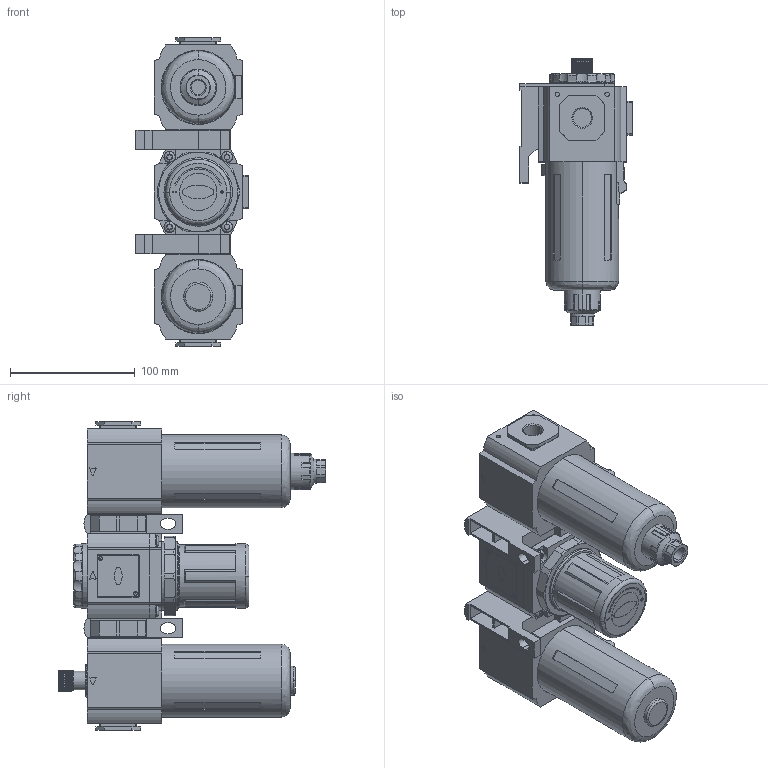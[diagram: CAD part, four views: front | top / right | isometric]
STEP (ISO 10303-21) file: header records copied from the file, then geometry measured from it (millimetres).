
FILE_DESCRIPTION (( 'STEP AP214' ), '1' );
FILE_NAME ('GC-400-10-F1.STEP', '2016-01-22T14:51:04', ( '' ), ( '' ), 'SwSTEP 2.0', 'SolidWorks 2016', '' );
FILE_SCHEMA (( 'AUTOMOTIVE_DESIGN' ));
Length unit declared in the file: millimetre
Products named in the file (29): 23; 9; 22; 10; 21; 18; 1; 25; 16; 3; 4; 8; 17; 7; 14; 20; 15; 26; 11; 12; 27; 5; 13; 24; 19; 6; GC-400-10-F1; 28; 2
Assembly tree (28 placements, depth 2):
  GC-400-10-F1
    1
    2
    3
    4
    5
    6
    7
    8
    9
    10
    11
    12
    13
    14
    15
    16
    17
    18
    19
    20
    21
    22
    23
    24
    25
    26
    27
    28
Bounding box: 90 x 214.5 x 248 mm (x, y, z)
Volume: 1296888.4 mm3; surface area: 286142.4 mm2
Topology: 28 solids, 28 shells, 1903 faces, 4884 edges, 3213 vertices
Faces by surface type: plane 1222, cylinder 516, bspline 89, cone 76
Entity records: 83968 total; most frequent: CARTESIAN_POINT 15493, ORIENTED_EDGE 9768, DIRECTION 9492, EDGE_CURVE 4884, AXIS2_PLACEMENT_3D 3252, VERTEX_POINT 3213, LINE 2988, VECTOR 2988
